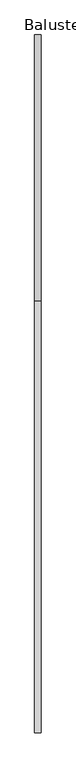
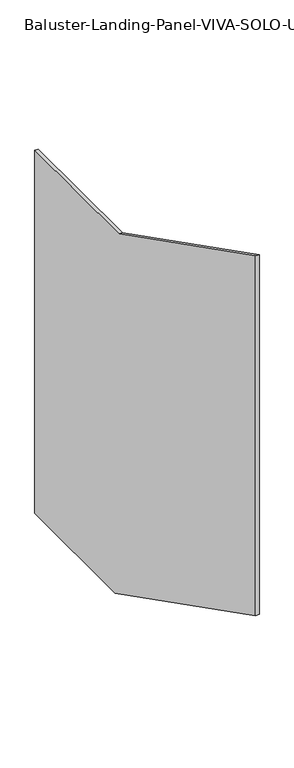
"""IFC4 building model written with IfcOpenShell, lengths in millimetres: railing geometry, Baluster-Landing-Panel-VIVA-SOLO-Upper : Standard_Glass."""

from ifc_helpers import new_model, si_unit, frame, origin, place, context, project, spatial, polyline, outline, extrude, source, transform, mapped, element, save


def baluster_landing_panel_viva_solo_upper_standard_glass_fb48f398(model_context):
    return source(origin(), model_context, "Body", "SweptSolid", [
        extrude(outline(polyline([(638.05957, 1109.345), (1030.397593, 1109.345), (1030.397593, 75.910421), (656.6664276, 75.910421), (0.0, 410.21), (0.0, 1434.1720913), (638.05957, 1109.345)])), frame((31.6077292, 0.0, 0.0), z_axis=(1.0, 0.0, 0.0), x_axis=(0.0, 1.0, 0.0)), (0.0, 0.0, 1.0), 9.525),
    ])


if __name__ == "__main__":
    model = new_model("IFC4")
    model_context = context("Model", 3, world=origin())
    ifc_project = project(units=[si_unit("LENGTHUNIT", "METRE", prefix="MILLI")], contexts=[model_context])
    site = spatial("IfcSite", under=ifc_project)
    building = spatial("IfcBuilding", under=site)
    placement = place(None, origin())
    baluster_landing_panel_viva_solo_upper_standard_glass_shape = baluster_landing_panel_viva_solo_upper_standard_glass_fb48f398(model_context)
    element("IfcRailing", 1, ObjectType="Baluster-Landing-Panel-VIVA-SOLO-Upper : Standard_Glass", at=placement, inside=building, context=model_context, shape_type="MappedRepresentation", body=[
        mapped(baluster_landing_panel_viva_solo_upper_standard_glass_shape, transform((0.0, 0.0, 0.0), x_axis=(1.0, 0.0, 0.0), y_axis=(0.0, 1.0, 0.0), z_axis=(0.0, 0.0, 1.0))),
    ])
    save(model, "model.ifc")
